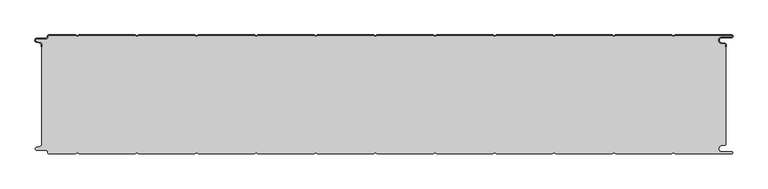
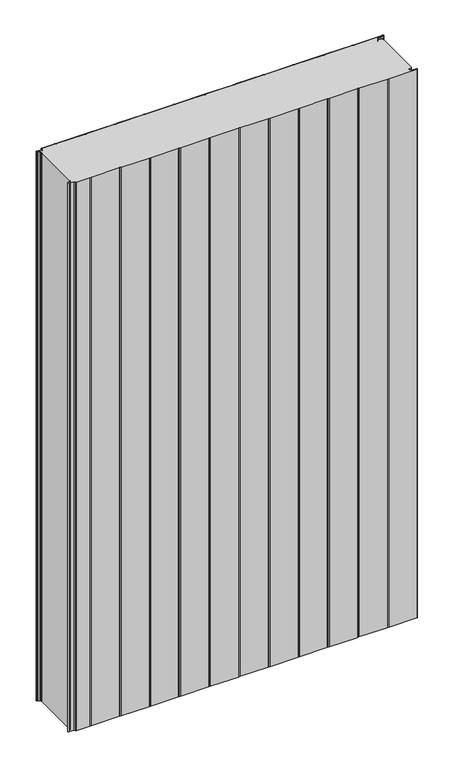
"""IFC4 building model written with IfcOpenShell, lengths in millimetres: plate geometry, PM1_Curtain-Panel_Perfil-Frigorífico : ACH_PM1_Panel-Acústico-Sectorización_200M."""

from ifc_helpers import new_model, si_unit, point, frame, frame_2d, origin, origin_with_axes, place, context, project, spatial, polyline, circle_curve, trimmed, segment, composite_curve, outline, extrude, source, transform, mapped, element, save
from ifc_brep_helpers import plane_surface, cylinder_surface, revolved_surface, advanced_brep


def plate_3ec6e447(model_context):
    return source(origin(), model_context, "Body", "SolidModel", [
        advanced_brep(
        [(-575.0, -15.878557, 1945.7507136), (-575.0, -20.0, 1945.7507136), (-574.2, -20.0, 1945.7507136), (-574.2, -15.878557, 1945.7507136), (-576.370137, -13.1503208, 1945.7507136), (-582.529863, -11.728236, 1945.7507136), (-581.9, -6.2, 1945.7507136), (-566.4, -6.2, 1945.7507136), (-563.6, -3.4, 1945.7507136), (-563.6, -2.0, 1945.7507136), (-562.4, -0.8, 1945.7507136), (-517.3143588, -0.8, 1945.7507136), (-514.4, -2.482606, 1945.7507136), (-511.4856412, -0.8, 1945.7507136), (-417.3143588, -0.8, 1945.7507136), (-414.4, -2.482606, 1945.7507136), (-411.4856412, -0.8, 1945.7507136), (-317.3143588, -0.8, 1945.7507136), (-314.4, -2.482606, 1945.7507136), (-311.4856412, -0.8, 1945.7507136), (-217.3143588, -0.8, 1945.7507136), (-214.4, -2.482606, 1945.7507136), (-211.4856412, -0.8, 1945.7507136), (-117.3143588, -0.8, 1945.7507136), (-114.4, -2.482606, 1945.7507136), (-111.4856412, -0.8, 1945.7507136), (-17.3143588, -0.8, 1945.7507136), (-14.4, -2.482606, 1945.7507136), (-11.4856412, -0.8, 1945.7507136), (82.6856412, -0.8, 1945.7507136), (85.6, -2.482606, 1945.7507136), (88.5143588, -0.8, 1945.7507136), (182.6856412, -0.8, 1945.7507136), (185.6, -2.482606, 1945.7507136), (188.5143588, -0.8, 1945.7507136), (282.6856412, -0.8, 1945.7507136), (285.6, -2.482606, 1945.7507136), (288.5143588, -0.8, 1945.7507136), (382.6856412, -0.8, 1945.7507136), (385.6, -2.482606, 1945.7507136), (388.5143588, -0.8, 1945.7507136), (482.6856412, -0.8, 1945.7507136), (485.6, -2.482606, 1945.7507136), (488.5143588, -0.8, 1945.7507136), (583.1, -0.8, 1945.7507136), (583.1, -4.2, 1945.7507136), (566.1, -4.2, 1945.7507136), (565.2664884, -13.7270771, 1945.7507136), (571.7125669, -14.8636953, 1945.7507136), (573.2, -16.6363492, 1945.7507136), (573.2, -20.0, 1945.7507136), (574.0, -20.0, 1945.7507136), (574.0, -16.6363492, 1945.7507136), (571.8514855, -14.0758491, 1945.7507136), (565.405407, -12.939231, 1945.7507136), (566.1, -5.0, 1945.7507136), (583.1, -5.0, 1945.7507136), (585.6, -2.5, 1945.7507136), (583.1, 0.0, 1945.7507136), (488.2999995, 0.0, 1945.7507136), (485.6, -1.5588455, 1945.7507136), (482.9000005, 0.0, 1945.7507136), (388.2999995, 0.0, 1945.7507136), (385.6, -1.5588455, 1945.7507136), (382.9000005, 0.0, 1945.7507136), (288.2999995, 0.0, 1945.7507136), (285.6, -1.5588455, 1945.7507136), (282.9000005, 0.0, 1945.7507136), (188.2999995, 0.0, 1945.7507136), (185.6, -1.5588455, 1945.7507136), (182.9000005, 0.0, 1945.7507136), (88.2999995, 0.0, 1945.7507136), (85.6, -1.5588455, 1945.7507136), (82.9000005, 0.0, 1945.7507136), (-11.7000005, 0.0, 1945.7507136), (-14.4, -1.5588455, 1945.7507136), (-17.0999995, 0.0, 1945.7507136), (-111.7000005, 0.0, 1945.7507136), (-114.4, -1.5588455, 1945.7507136), (-117.0999995, 0.0, 1945.7507136), (-211.7000005, 0.0, 1945.7507136), (-214.4, -1.5588455, 1945.7507136), (-217.0999995, 0.0, 1945.7507136), (-311.7000005, 0.0, 1945.7507136), (-314.4, -1.5588455, 1945.7507136), (-317.0999995, 0.0, 1945.7507136), (-411.7000005, 0.0, 1945.7507136), (-414.4, -1.5588455, 1945.7507136), (-417.0999995, 0.0, 1945.7507136), (-511.7000005, 0.0, 1945.7507136), (-514.4, -1.5588455, 1945.7507136), (-517.0999995, 0.0, 1945.7507136), (-562.4, 0.0, 1945.7507136), (-564.4, -2.0, 1945.7507136), (-564.4, -3.4, 1945.7507136), (-566.4, -5.4, 1945.7507136), (-581.9, -5.4, 1945.7507136), (-582.7098239, -12.5077322, 1945.7507136), (-576.5500979, -13.929817, 1945.7507136), (-575.0, -15.878557, 0.0), (-576.5500978, -13.9298169, 0.0), (-582.7098239, -12.507732, 0.0), (-581.9, -5.4, 0.0), (-566.4, -5.4, 0.0), (-564.4, -3.4, 0.0), (-564.4, -2.0, 0.0), (-562.4, 0.0, 0.0), (-517.0999995, 0.0, 0.0), (-514.4, -1.5588455, 0.0), (-511.7000005, 0.0, 0.0), (-417.0999995, 0.0, 0.0), (-414.4, -1.5588455, 0.0), (-411.7000005, 0.0, 0.0), (-317.0999995, 0.0, 0.0), (-314.4, -1.5588455, 0.0), (-311.7000005, 0.0, 0.0), (-217.0999995, 0.0, 0.0), (-214.4, -1.5588455, 0.0), (-211.7000005, 0.0, 0.0), (-117.0999995, 0.0, 0.0), (-114.4, -1.5588455, 0.0), (-111.7000005, 0.0, 0.0), (-17.0999995, 0.0, 0.0), (-14.4, -1.5588455, 0.0), (-11.7000005, 0.0, 0.0), (82.9000005, 0.0, 0.0), (85.6, -1.5588455, 0.0), (88.2999995, 0.0, 0.0), (182.9000005, 0.0, 0.0), (185.6, -1.5588455, 0.0), (188.2999995, 0.0, 0.0), (282.9000005, 0.0, 0.0), (285.6, -1.5588455, 0.0), (288.2999995, 0.0, 0.0), (382.9000005, 0.0, 0.0), (385.6, -1.5588455, 0.0), (388.2999995, 0.0, 0.0), (482.9000005, 0.0, 0.0), (485.6, -1.5588455, 0.0), (488.2999995, 0.0, 0.0), (583.1, 0.0, 0.0), (585.6, -2.5, 0.0), (583.1, -5.0, 0.0), (566.1, -5.0, 0.0), (565.405407, -12.939231, 0.0), (571.8514855, -14.0758491, 0.0), (574.0, -16.6363492, 0.0), (574.0, -20.0, 0.0), (573.2, -20.0, 0.0), (573.2, -16.6363492, 0.0), (571.7125669, -14.8636953, 0.0), (565.2664884, -13.7270772, 0.0), (566.1, -4.2, 0.0), (583.1, -4.2, 0.0), (583.1, -0.8, 0.0), (488.5143588, -0.8, 0.0), (485.6, -2.482606, 0.0), (482.6856412, -0.8, 0.0), (388.5143588, -0.8, 0.0), (385.6, -2.482606, 0.0), (382.6856412, -0.8, 0.0), (288.5143588, -0.8, 0.0), (285.6, -2.482606, 0.0), (282.6856412, -0.8, 0.0), (188.5143588, -0.8, 0.0), (185.6, -2.482606, 0.0), (182.6856412, -0.8, 0.0), (88.5143588, -0.8, 0.0), (85.6, -2.482606, 0.0), (82.6856412, -0.8, 0.0), (-11.4856412, -0.8, 0.0), (-14.4, -2.482606, 0.0), (-17.3143588, -0.8, 0.0), (-111.4856412, -0.8, 0.0), (-114.4, -2.482606, 0.0), (-117.3143588, -0.8, 0.0), (-211.4856412, -0.8, 0.0), (-214.4, -2.482606, 0.0), (-217.3143588, -0.8, 0.0), (-311.4856412, -0.8, 0.0), (-314.4, -2.482606, 0.0), (-317.3143588, -0.8, 0.0), (-411.4856412, -0.8, 0.0), (-414.4, -2.482606, 0.0), (-417.3143588, -0.8, 0.0), (-511.4856412, -0.8, 0.0), (-514.4, -2.482606, 0.0), (-517.3143588, -0.8, 0.0), (-562.4, -0.8, 0.0), (-563.6, -2.0, 0.0), (-563.6, -3.4, 0.0), (-566.4, -6.2, 0.0), (-581.9, -6.2, 0.0), (-582.529863, -11.7282362, 0.0), (-576.370137, -13.150321, 0.0), (-574.2, -15.878557, 0.0), (-574.2, -20.0, 0.0), (-575.0, -20.0, 0.0)],
        [
            (0, 1),
            (1, 2),
            (2, 3),
            (3, 4, circle_curve(frame((-577.0, -15.878557, 1945.7507136), z_axis=(0.0, 0.0, 1.0), x_axis=(1.0, 0.0, 0.0)), 2.8)),
            (4, 5),
            (5, 6, circle_curve(frame((-581.9, -9.0, 1945.7507136), z_axis=(0.0, 0.0, -1.0), x_axis=(1.0, 0.0, 0.0)), 2.8)),
            (6, 7),
            (7, 8, circle_curve(frame((-566.4, -3.4, 1945.7507136), z_axis=(0.0, 0.0, 1.0), x_axis=(1.0, 0.0, 0.0)), 2.8)),
            (8, 9),
            (9, 10, circle_curve(frame((-562.4, -2.0, 1945.7507136), z_axis=(0.0, 0.0, -1.0), x_axis=(1.0, 0.0, 0.0)), 1.2)),
            (10, 11),
            (11, 12),
            (12, 13),
            (13, 14),
            (14, 15),
            (15, 16),
            (16, 17),
            (17, 18),
            (18, 19),
            (19, 20),
            (20, 21),
            (21, 22),
            (22, 23),
            (23, 24),
            (24, 25),
            (25, 26),
            (26, 27),
            (27, 28),
            (28, 29),
            (29, 30),
            (30, 31),
            (31, 32),
            (32, 33),
            (33, 34),
            (34, 35),
            (35, 36),
            (36, 37),
            (37, 38),
            (38, 39),
            (39, 40),
            (40, 41),
            (41, 42),
            (42, 43),
            (43, 44),
            (44, 45, circle_curve(frame((583.1, -2.5, 1945.7507136), z_axis=(0.0, 0.0, -1.0), x_axis=(1.0, 0.0, 0.0)), 1.7)),
            (45, 46),
            (46, 47, circle_curve(frame((566.1, -9.0, 1945.7507136), z_axis=(0.0, 0.0, 1.0), x_axis=(1.0, 0.0, 0.0)), 4.8)),
            (47, 48),
            (48, 49, circle_curve(frame((571.4, -16.6363492, 1945.7507136), z_axis=(0.0, 0.0, -1.0), x_axis=(1.0, 0.0, 0.0)), 1.8)),
            (49, 50),
            (50, 51),
            (51, 52),
            (52, 53, circle_curve(frame((571.4, -16.6363492, 1945.7507136), z_axis=(0.0, 0.0, 1.0), x_axis=(1.0, 0.0, 0.0)), 2.6)),
            (53, 54),
            (54, 55, circle_curve(frame((566.1, -9.0, 1945.7507136), z_axis=(0.0, 0.0, -1.0), x_axis=(1.0, 0.0, 0.0)), 4.0)),
            (55, 56),
            (56, 57, circle_curve(frame((583.1, -2.5, 1945.7507136), z_axis=(0.0, 0.0, 1.0), x_axis=(1.0, 0.0, 0.0)), 2.5)),
            (57, 58, circle_curve(frame((583.1, -2.5, 1945.7507136), z_axis=(0.0, 0.0, 1.0), x_axis=(1.0, 0.0, 0.0)), 2.5)),
            (58, 59),
            (59, 60),
            (60, 61),
            (61, 62),
            (62, 63),
            (63, 64),
            (64, 65),
            (65, 66),
            (66, 67),
            (67, 68),
            (68, 69),
            (69, 70),
            (70, 71),
            (71, 72),
            (72, 73),
            (73, 74),
            (74, 75),
            (75, 76),
            (76, 77),
            (77, 78),
            (78, 79),
            (79, 80),
            (80, 81),
            (81, 82),
            (82, 83),
            (83, 84),
            (84, 85),
            (85, 86),
            (86, 87),
            (87, 88),
            (88, 89),
            (89, 90),
            (90, 91),
            (91, 92),
            (92, 93, circle_curve(frame((-562.4, -2.0, 1945.7507136), z_axis=(0.0, 0.0, 1.0), x_axis=(1.0, 0.0, 0.0)), 2.0)),
            (93, 94),
            (94, 95, circle_curve(frame((-566.4, -3.4, 1945.7507136), z_axis=(0.0, 0.0, -1.0), x_axis=(1.0, 0.0, 0.0)), 2.0)),
            (95, 96),
            (96, 97, circle_curve(frame((-581.9, -9.0, 1945.7507136), z_axis=(0.0, 0.0, 1.0), x_axis=(1.0, 0.0, 0.0)), 3.6)),
            (97, 98),
            (98, 0, circle_curve(frame((-577.0, -15.878557, 1945.7507136), z_axis=(0.0, 0.0, -1.0), x_axis=(1.0, 0.0, 0.0)), 2.0)),
            (99, 100, circle_curve(frame((-577.0, -15.878557, 0.0), z_axis=(0.0, 0.0, 1.0), x_axis=(1.0, 0.0, 0.0)), 2.0)),
            (100, 101),
            (101, 102, circle_curve(frame((-581.9, -9.0, 0.0), z_axis=(0.0, 0.0, -1.0), x_axis=(1.0, 0.0, 0.0)), 3.6)),
            (102, 103),
            (103, 104, circle_curve(frame((-566.4, -3.4, 0.0), z_axis=(0.0, 0.0, 1.0), x_axis=(1.0, 0.0, 0.0)), 2.0)),
            (104, 105),
            (105, 106, circle_curve(frame((-562.4, -2.0, 0.0), z_axis=(0.0, 0.0, -1.0), x_axis=(1.0, 0.0, 0.0)), 2.0)),
            (106, 107),
            (107, 108),
            (108, 109),
            (109, 110),
            (110, 111),
            (111, 112),
            (112, 113),
            (113, 114),
            (114, 115),
            (115, 116),
            (116, 117),
            (117, 118),
            (118, 119),
            (119, 120),
            (120, 121),
            (121, 122),
            (122, 123),
            (123, 124),
            (124, 125),
            (125, 126),
            (126, 127),
            (127, 128),
            (128, 129),
            (129, 130),
            (130, 131),
            (131, 132),
            (132, 133),
            (133, 134),
            (134, 135),
            (135, 136),
            (136, 137),
            (137, 138),
            (138, 139),
            (139, 140),
            (140, 141, circle_curve(frame((583.1, -2.5, 0.0), z_axis=(0.0, 0.0, -1.0), x_axis=(1.0, 0.0, 0.0)), 2.5)),
            (141, 142, circle_curve(frame((583.1, -2.5, 0.0), z_axis=(0.0, 0.0, -1.0), x_axis=(1.0, 0.0, 0.0)), 2.5)),
            (142, 143),
            (143, 144, circle_curve(frame((566.1, -9.0, 0.0), z_axis=(0.0, 0.0, 1.0), x_axis=(1.0, 0.0, 0.0)), 4.0)),
            (144, 145),
            (145, 146, circle_curve(frame((571.4, -16.6363492, 0.0), z_axis=(0.0, 0.0, -1.0), x_axis=(1.0, 0.0, 0.0)), 2.6)),
            (146, 147),
            (147, 148),
            (148, 149),
            (149, 150, circle_curve(frame((571.4, -16.6363492, 0.0), z_axis=(0.0, 0.0, 1.0), x_axis=(1.0, 0.0, 0.0)), 1.8)),
            (150, 151),
            (151, 152, circle_curve(frame((566.1, -9.0, 0.0), z_axis=(0.0, 0.0, -1.0), x_axis=(1.0, 0.0, 0.0)), 4.8)),
            (152, 153),
            (153, 154, circle_curve(frame((583.1, -2.5, 0.0), z_axis=(0.0, 0.0, 1.0), x_axis=(1.0, 0.0, 0.0)), 1.7)),
            (154, 155),
            (155, 156),
            (156, 157),
            (157, 158),
            (158, 159),
            (159, 160),
            (160, 161),
            (161, 162),
            (162, 163),
            (163, 164),
            (164, 165),
            (165, 166),
            (166, 167),
            (167, 168),
            (168, 169),
            (169, 170),
            (170, 171),
            (171, 172),
            (172, 173),
            (173, 174),
            (174, 175),
            (175, 176),
            (176, 177),
            (177, 178),
            (178, 179),
            (179, 180),
            (180, 181),
            (181, 182),
            (182, 183),
            (183, 184),
            (184, 185),
            (185, 186),
            (186, 187),
            (187, 188),
            (188, 189, circle_curve(frame((-562.4, -2.0, 0.0), z_axis=(0.0, 0.0, 1.0), x_axis=(1.0, 0.0, 0.0)), 1.2)),
            (189, 190),
            (190, 191, circle_curve(frame((-566.4, -3.4, 0.0), z_axis=(0.0, 0.0, -1.0), x_axis=(1.0, 0.0, 0.0)), 2.8)),
            (191, 192),
            (192, 193, circle_curve(frame((-581.9, -9.0, 0.0), z_axis=(0.0, 0.0, 1.0), x_axis=(1.0, 0.0, 0.0)), 2.8)),
            (193, 194),
            (194, 195, circle_curve(frame((-577.0, -15.878557, 0.0), z_axis=(0.0, 0.0, -1.0), x_axis=(1.0, 0.0, 0.0)), 2.8)),
            (195, 196),
            (196, 197),
            (197, 99),
            (0, 99),
            (197, 1),
            (196, 2),
            (195, 3),
            (194, 4),
            (193, 5),
            (192, 6),
            (191, 7),
            (190, 8),
            (189, 9),
            (188, 10),
            (187, 11),
            (186, 12),
            (185, 13),
            (184, 14),
            (183, 15),
            (182, 16),
            (181, 17),
            (180, 18),
            (179, 19),
            (178, 20),
            (177, 21),
            (176, 22),
            (175, 23),
            (174, 24),
            (173, 25),
            (172, 26),
            (171, 27),
            (170, 28),
            (169, 29),
            (168, 30),
            (167, 31),
            (166, 32),
            (165, 33),
            (164, 34),
            (163, 35),
            (162, 36),
            (161, 37),
            (160, 38),
            (159, 39),
            (158, 40),
            (157, 41),
            (156, 42),
            (155, 43),
            (154, 44),
            (153, 45),
            (152, 46),
            (151, 47),
            (150, 48),
            (149, 49),
            (148, 50),
            (147, 51),
            (146, 52),
            (145, 53),
            (144, 54),
            (143, 55),
            (142, 56),
            (140, 58),
            (139, 59),
            (138, 60),
            (137, 61),
            (136, 62),
            (135, 63),
            (134, 64),
            (133, 65),
            (132, 66),
            (131, 67),
            (130, 68),
            (129, 69),
            (128, 70),
            (127, 71),
            (126, 72),
            (125, 73),
            (124, 74),
            (123, 75),
            (122, 76),
            (121, 77),
            (120, 78),
            (119, 79),
            (118, 80),
            (117, 81),
            (116, 82),
            (115, 83),
            (114, 84),
            (113, 85),
            (112, 86),
            (111, 87),
            (110, 88),
            (109, 89),
            (108, 90),
            (107, 91),
            (106, 92),
            (105, 93),
            (104, 94),
            (103, 95),
            (102, 96),
            (101, 97),
            (100, 98),
        ],
        [
            plane_surface(frame((-575.0, 0.0, 1945.7507136), z_axis=(0.0, 0.0, 1.0), x_axis=(0.0, 1.0, 0.0))),
            plane_surface(frame((-575.0, 0.0, 0.0), z_axis=(0.0, 0.0, -1.0), x_axis=(0.0, 1.0, 0.0))),
            plane_surface(frame((-575.0, -15.878557, 1945.7507136), z_axis=(-1.0, 0.0, 0.0), x_axis=(0.0, 0.0, -1.0))),
            plane_surface(frame((-575.0, -20.0, 1945.7507136), z_axis=(0.0, -1.0, 0.0), x_axis=(0.0, 0.0, -1.0))),
            plane_surface(frame((-574.2, -20.0, 1945.7507136), z_axis=(1.0, 0.0, 0.0), x_axis=(0.0, 0.0, -1.0))),
            cylinder_surface(frame((-577.0, -15.878557, 1945.7507136), z_axis=(0.0, 0.0, 1.0), x_axis=(1.0, 0.0, 0.0)), 2.8),
            plane_surface(frame((-576.370137, -13.150321, 1945.7507136), z_axis=(0.22495108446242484, 0.9743700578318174, 0.0), x_axis=(0.0, 0.0, -1.0))),
            revolved_surface(polyline([(-579.1, -9.0, 0.0), (-579.1, -9.0, 1945.7507136)]), (-581.9, -9.0, 1945.7507136), (0.0, 0.0, -1.0)),
            plane_surface(frame((-581.9, -6.2, 1945.7507136), z_axis=(0.0, -1.0, 0.0), x_axis=(0.0, 0.0, -1.0))),
            cylinder_surface(frame((-566.4, -3.4, 1945.7507136), z_axis=(0.0, 0.0, 1.0), x_axis=(1.0, 0.0, 0.0)), 2.8),
            plane_surface(frame((-563.6, -3.4, 1945.7507136), z_axis=(1.0, 0.0, 0.0), x_axis=(0.0, 0.0, -1.0))),
            revolved_surface(polyline([(-561.1999999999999, -2.0, 0.0), (-561.1999999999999, -2.0, 1945.7507136)]), (-562.4, -2.0, 1945.7507136), (0.0, 0.0, -1.0)),
            plane_surface(frame((-562.4, -0.8, 1945.7507136), z_axis=(0.0, -1.0, 0.0), x_axis=(0.0, 0.0, -1.0))),
            plane_surface(frame((-517.3143588, -0.8, 1945.7507136), z_axis=(-0.5000000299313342, -0.8660253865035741, 0.0), x_axis=(0.0, 0.0, -1.0))),
            plane_surface(frame((-514.4, -2.482606, 1945.7507136), z_axis=(0.5000000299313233, -0.8660253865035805, 0.0), x_axis=(0.0, 0.0, -1.0))),
            plane_surface(frame((-511.4856412, -0.8, 1945.7507136), z_axis=(0.0, -1.0, 0.0), x_axis=(0.0, 0.0, -1.0))),
            plane_surface(frame((-417.3143588, -0.8, 1945.7507136), z_axis=(-0.5000000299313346, -0.8660253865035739, 0.0), x_axis=(0.0, 0.0, -1.0))),
            plane_surface(frame((-414.4, -2.482606, 1945.7507136), z_axis=(0.5000000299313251, -0.8660253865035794, 0.0), x_axis=(0.0, 0.0, -1.0))),
            plane_surface(frame((-411.4856412, -0.8, 1945.7507136), z_axis=(0.0, -1.0, 0.0), x_axis=(0.0, 0.0, -1.0))),
            plane_surface(frame((-317.3143588, -0.8, 1945.7507136), z_axis=(-0.5000000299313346, -0.866025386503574, 0.0), x_axis=(0.0, 0.0, -1.0))),
            plane_surface(frame((-314.4, -2.482606, 1945.7507136), z_axis=(0.5000000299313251, -0.8660253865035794, 0.0), x_axis=(0.0, 0.0, -1.0))),
            plane_surface(frame((-311.4856412, -0.8, 1945.7507136), z_axis=(0.0, -1.0, 0.0), x_axis=(0.0, 0.0, -1.0))),
            plane_surface(frame((-217.3143588, -0.8, 1945.7507136), z_axis=(-0.5000000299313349, -0.8660253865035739, 0.0), x_axis=(0.0, 0.0, -1.0))),
            plane_surface(frame((-214.4, -2.482606, 1945.7507136), z_axis=(0.5000000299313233, -0.8660253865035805, 0.0), x_axis=(0.0, 0.0, -1.0))),
            plane_surface(frame((-211.4856412, -0.8, 1945.7507136), z_axis=(0.0, -1.0, 0.0), x_axis=(0.0, 0.0, -1.0))),
            plane_surface(frame((-117.3143588, -0.8, 1945.7507136), z_axis=(-0.5000000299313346, -0.866025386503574, 0.0), x_axis=(0.0, 0.0, -1.0))),
            plane_surface(frame((-114.4, -2.482606, 1945.7507136), z_axis=(0.5000000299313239, -0.8660253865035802, 0.0), x_axis=(0.0, 0.0, -1.0))),
            plane_surface(frame((-111.4856412, -0.8, 1945.7507136), z_axis=(0.0, -1.0, 0.0), x_axis=(0.0, 0.0, -1.0))),
            plane_surface(frame((-17.3143588, -0.8, 1945.7507136), z_axis=(-0.5000000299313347, -0.8660253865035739, 0.0), x_axis=(0.0, 0.0, -1.0))),
            plane_surface(frame((-14.4, -2.482606, 1945.7507136), z_axis=(0.5000000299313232, -0.8660253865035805, 0.0), x_axis=(0.0, 0.0, -1.0))),
            plane_surface(frame((-11.4856412, -0.8, 1945.7507136), z_axis=(0.0, -1.0, 0.0), x_axis=(0.0, 0.0, -1.0))),
            plane_surface(frame((82.6856412, -0.8, 1945.7507136), z_axis=(-0.5000000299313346, -0.866025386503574, 0.0), x_axis=(0.0, 0.0, -1.0))),
            plane_surface(frame((85.6, -2.482606, 1945.7507136), z_axis=(0.5000000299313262, -0.8660253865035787, 0.0), x_axis=(0.0, 0.0, -1.0))),
            plane_surface(frame((88.5143588, -0.8, 1945.7507136), z_axis=(0.0, -1.0, 0.0), x_axis=(0.0, 0.0, -1.0))),
            plane_surface(frame((182.6856412, -0.8, 1945.7507136), z_axis=(-0.5000000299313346, -0.8660253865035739, 0.0), x_axis=(0.0, 0.0, -1.0))),
            plane_surface(frame((185.6, -2.482606, 1945.7507136), z_axis=(0.5000000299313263, -0.8660253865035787, 0.0), x_axis=(0.0, 0.0, -1.0))),
            plane_surface(frame((188.5143588, -0.8, 1945.7507136), z_axis=(0.0, -1.0, 0.0), x_axis=(0.0, 0.0, -1.0))),
            plane_surface(frame((282.6856412, -0.8, 1945.7507136), z_axis=(-0.5000000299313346, -0.8660253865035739, 0.0), x_axis=(0.0, 0.0, -1.0))),
            plane_surface(frame((285.6, -2.482606, 1945.7507136), z_axis=(0.5000000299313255, -0.8660253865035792, 0.0), x_axis=(0.0, 0.0, -1.0))),
            plane_surface(frame((288.5143588, -0.8, 1945.7507136), z_axis=(0.0, -1.0, 0.0), x_axis=(0.0, 0.0, -1.0))),
            plane_surface(frame((382.6856412, -0.8, 1945.7507136), z_axis=(-0.5000000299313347, -0.8660253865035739, 0.0), x_axis=(0.0, 0.0, -1.0))),
            plane_surface(frame((385.6, -2.482606, 1945.7507136), z_axis=(0.5000000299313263, -0.8660253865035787, 0.0), x_axis=(0.0, 0.0, -1.0))),
            plane_surface(frame((388.5143588, -0.8, 1945.7507136), z_axis=(0.0, -1.0, 0.0), x_axis=(0.0, 0.0, -1.0))),
            plane_surface(frame((482.6856412, -0.8, 1945.7507136), z_axis=(-0.5000000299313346, -0.866025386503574, 0.0), x_axis=(0.0, 0.0, -1.0))),
            plane_surface(frame((485.6, -2.482606, 1945.7507136), z_axis=(0.5000000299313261, -0.8660253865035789, 0.0), x_axis=(0.0, 0.0, -1.0))),
            plane_surface(frame((535.6, -0.8, 1945.7507136), z_axis=(0.0, -1.0, 0.0), x_axis=(0.0, 0.0, -1.0))),
            revolved_surface(polyline([(584.8000000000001, -2.5, 0.0), (584.8000000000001, -2.5, 1945.7507136)]), (583.1, -2.5, 1945.7507136), (0.0, 0.0, -1.0)),
            plane_surface(frame((583.1, -4.2, 1945.7507136), z_axis=(0.0, 1.0, 0.0), x_axis=(0.0, 0.0, -1.0))),
            cylinder_surface(frame((566.1, -9.0, 1945.7507136), z_axis=(0.0, 0.0, 1.0), x_axis=(1.0, 0.0, 0.0)), 4.8),
            plane_surface(frame((565.2664884, -13.7270772, 1945.7507136), z_axis=(-0.17364825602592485, -0.9848077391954, 0.0), x_axis=(0.0, 0.0, -1.0))),
            revolved_surface(polyline([(573.1999999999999, -16.6363492, 0.0), (573.1999999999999, -16.6363492, 1945.7507136)]), (571.4, -16.6363492, 1945.7507136), (0.0, 0.0, -1.0)),
            plane_surface(frame((573.2, -16.6363492, 1945.7507136), z_axis=(-1.0, 0.0, 0.0), x_axis=(0.0, 0.0, -1.0))),
            plane_surface(frame((573.2, -20.0, 1945.7507136), z_axis=(0.0, -1.0, 0.0), x_axis=(0.0, 0.0, -1.0))),
            plane_surface(frame((574.0, -20.0, 1945.7507136), z_axis=(1.0, 0.0, 0.0), x_axis=(0.0, 0.0, -1.0))),
            cylinder_surface(frame((571.4, -16.6363492, 1945.7507136), z_axis=(0.0, 0.0, 1.0), x_axis=(1.0, 0.0, 0.0)), 2.6),
            plane_surface(frame((571.8514855, -14.0758491, 1945.7507136), z_axis=(0.1736482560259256, 0.9848077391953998, 0.0), x_axis=(0.0, 0.0, -1.0))),
            revolved_surface(polyline([(570.1, -9.0, 0.0), (570.1, -9.0, 1945.7507136)]), (566.1, -9.0, 1945.7507136), (0.0, 0.0, -1.0)),
            plane_surface(frame((566.1, -5.0, 1945.7507136), z_axis=(0.0, -1.0, 0.0), x_axis=(0.0, 0.0, -1.0))),
            cylinder_surface(frame((583.1, -2.5, 1945.7507136), z_axis=(0.0, 0.0, 1.0), x_axis=(1.0, 0.0, 0.0)), 2.5),
            plane_surface(frame((535.6, 0.0, 1945.7507136), z_axis=(0.0, 1.0, 0.0), x_axis=(0.0, 0.0, -1.0))),
            plane_surface(frame((488.2999995, 0.0, 1945.7507136), z_axis=(-0.5000000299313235, 0.8660253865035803, 0.0), x_axis=(0.0, 0.0, -1.0))),
            plane_surface(frame((485.6, -1.5588455, 1945.7507136), z_axis=(0.5000000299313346, 0.8660253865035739, 0.0), x_axis=(0.0, 0.0, -1.0))),
            plane_surface(frame((482.9000005, 0.0, 1945.7507136), z_axis=(0.0, 1.0, 0.0), x_axis=(0.0, 0.0, -1.0))),
            plane_surface(frame((388.2999995, 0.0, 1945.7507136), z_axis=(-0.5000000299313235, 0.8660253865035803, 0.0), x_axis=(0.0, 0.0, -1.0))),
            plane_surface(frame((385.6, -1.5588455, 1945.7507136), z_axis=(0.5000000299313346, 0.8660253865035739, 0.0), x_axis=(0.0, 0.0, -1.0))),
            plane_surface(frame((382.9000005, 0.0, 1945.7507136), z_axis=(0.0, 1.0, 0.0), x_axis=(0.0, 0.0, -1.0))),
            plane_surface(frame((288.2999995, 0.0, 1945.7507136), z_axis=(-0.5000000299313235, 0.8660253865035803, 0.0), x_axis=(0.0, 0.0, -1.0))),
            plane_surface(frame((285.6, -1.5588455, 1945.7507136), z_axis=(0.5000000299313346, 0.8660253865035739, 0.0), x_axis=(0.0, 0.0, -1.0))),
            plane_surface(frame((282.9000005, 0.0, 1945.7507136), z_axis=(0.0, 1.0, 0.0), x_axis=(0.0, 0.0, -1.0))),
            plane_surface(frame((188.2999995, 0.0, 1945.7507136), z_axis=(-0.5000000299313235, 0.8660253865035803, 0.0), x_axis=(0.0, 0.0, -1.0))),
            plane_surface(frame((185.6, -1.5588455, 1945.7507136), z_axis=(0.5000000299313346, 0.8660253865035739, 0.0), x_axis=(0.0, 0.0, -1.0))),
            plane_surface(frame((182.9000005, 0.0, 1945.7507136), z_axis=(0.0, 1.0, 0.0), x_axis=(0.0, 0.0, -1.0))),
            plane_surface(frame((88.2999995, 0.0, 1945.7507136), z_axis=(-0.5000000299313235, 0.8660253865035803, 0.0), x_axis=(0.0, 0.0, -1.0))),
            plane_surface(frame((85.6, -1.5588455, 1945.7507136), z_axis=(0.5000000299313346, 0.8660253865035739, 0.0), x_axis=(0.0, 0.0, -1.0))),
            plane_surface(frame((82.9000005, 0.0, 1945.7507136), z_axis=(0.0, 1.0, 0.0), x_axis=(0.0, 0.0, -1.0))),
            plane_surface(frame((-11.7000005, 0.0, 1945.7507136), z_axis=(-0.5000000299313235, 0.8660253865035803, 0.0), x_axis=(0.0, 0.0, -1.0))),
            plane_surface(frame((-14.4, -1.5588455, 1945.7507136), z_axis=(0.5000000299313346, 0.8660253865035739, 0.0), x_axis=(0.0, 0.0, -1.0))),
            plane_surface(frame((-17.0999995, 0.0, 1945.7507136), z_axis=(0.0, 1.0, 0.0), x_axis=(0.0, 0.0, -1.0))),
            plane_surface(frame((-111.7000005, 0.0, 1945.7507136), z_axis=(-0.5000000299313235, 0.8660253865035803, 0.0), x_axis=(0.0, 0.0, -1.0))),
            plane_surface(frame((-114.4, -1.5588455, 1945.7507136), z_axis=(0.5000000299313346, 0.8660253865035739, 0.0), x_axis=(0.0, 0.0, -1.0))),
            plane_surface(frame((-117.0999995, 0.0, 1945.7507136), z_axis=(0.0, 1.0, 0.0), x_axis=(0.0, 0.0, -1.0))),
            plane_surface(frame((-211.7000005, 0.0, 1945.7507136), z_axis=(-0.5000000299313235, 0.8660253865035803, 0.0), x_axis=(0.0, 0.0, -1.0))),
            plane_surface(frame((-214.4, -1.5588455, 1945.7507136), z_axis=(0.5000000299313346, 0.8660253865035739, 0.0), x_axis=(0.0, 0.0, -1.0))),
            plane_surface(frame((-217.0999995, 0.0, 1945.7507136), z_axis=(0.0, 1.0, 0.0), x_axis=(0.0, 0.0, -1.0))),
            plane_surface(frame((-311.7000005, 0.0, 1945.7507136), z_axis=(-0.5000000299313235, 0.8660253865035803, 0.0), x_axis=(0.0, 0.0, -1.0))),
            plane_surface(frame((-314.4, -1.5588455, 1945.7507136), z_axis=(0.5000000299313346, 0.8660253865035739, 0.0), x_axis=(0.0, 0.0, -1.0))),
            plane_surface(frame((-317.0999995, 0.0, 1945.7507136), z_axis=(0.0, 1.0, 0.0), x_axis=(0.0, 0.0, -1.0))),
            plane_surface(frame((-411.7000005, 0.0, 1945.7507136), z_axis=(-0.5000000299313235, 0.8660253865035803, 0.0), x_axis=(0.0, 0.0, -1.0))),
            plane_surface(frame((-414.4, -1.5588455, 1945.7507136), z_axis=(0.5000000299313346, 0.8660253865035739, 0.0), x_axis=(0.0, 0.0, -1.0))),
            plane_surface(frame((-417.0999995, 0.0, 1945.7507136), z_axis=(0.0, 1.0, 0.0), x_axis=(0.0, 0.0, -1.0))),
            plane_surface(frame((-511.7000005, 0.0, 1945.7507136), z_axis=(-0.5000000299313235, 0.8660253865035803, 0.0), x_axis=(0.0, 0.0, -1.0))),
            plane_surface(frame((-514.4, -1.5588455, 1945.7507136), z_axis=(0.5000000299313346, 0.8660253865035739, 0.0), x_axis=(0.0, 0.0, -1.0))),
            plane_surface(frame((-517.0999995, 0.0, 1945.7507136), z_axis=(0.0, 1.0, 0.0), x_axis=(0.0, 0.0, -1.0))),
            cylinder_surface(frame((-562.4, -2.0, 1945.7507136), z_axis=(0.0, 0.0, 1.0), x_axis=(1.0, 0.0, 0.0)), 2.0),
            plane_surface(frame((-564.4, -2.0, 1945.7507136), z_axis=(-1.0, 0.0, 0.0), x_axis=(0.0, 0.0, -1.0))),
            revolved_surface(polyline([(-564.4, -3.4, 0.0), (-564.4, -3.4, 1945.7507136)]), (-566.4, -3.4, 1945.7507136), (0.0, 0.0, -1.0)),
            plane_surface(frame((-566.4, -5.4, 1945.7507136), z_axis=(0.0, 1.0, 0.0), x_axis=(0.0, 0.0, -1.0))),
            cylinder_surface(frame((-581.9, -9.0, 1945.7507136), z_axis=(0.0, 0.0, 1.0), x_axis=(1.0, 0.0, 0.0)), 3.6),
            plane_surface(frame((-582.7098239, -12.507732, 1945.7507136), z_axis=(-0.22495108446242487, -0.9743700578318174, 0.0), x_axis=(0.0, 0.0, -1.0))),
            revolved_surface(polyline([(-575.0, -15.878557, 0.0), (-575.0, -15.878557, 1945.7507136)]), (-577.0, -15.878557, 1945.7507136), (0.0, 0.0, -1.0)),
        ],
        [
            (0, [[1, 2, 3, 4, 5, 6, 7, 8, 9, 10, 11, 12, 13, 14, 15, 16, 17, 18, 19, 20, 21, 22, 23, 24, 25, 26, 27, 28, 29, 30, 31, 32, 33, 34, 35, 36, 37, 38, 39, 40, 41, 42, 43, 44, 45, 46, 47, 48, 49, 50, 51, 52, 53, 54, 55, 56, 57, 58, 59, 60, 61, 62, 63, 64, 65, 66, 67, 68, 69, 70, 71, 72, 73, 74, 75, 76, 77, 78, 79, 80, 81, 82, 83, 84, 85, 86, 87, 88, 89, 90, 91, 92, 93, 94, 95, 96, 97, 98, 99]]),
            (1, [[100, 101, 102, 103, 104, 105, 106, 107, 108, 109, 110, 111, 112, 113, 114, 115, 116, 117, 118, 119, 120, 121, 122, 123, 124, 125, 126, 127, 128, 129, 130, 131, 132, 133, 134, 135, 136, 137, 138, 139, 140, 141, 142, 143, 144, 145, 146, 147, 148, 149, 150, 151, 152, 153, 154, 155, 156, 157, 158, 159, 160, 161, 162, 163, 164, 165, 166, 167, 168, 169, 170, 171, 172, 173, 174, 175, 176, 177, 178, 179, 180, 181, 182, 183, 184, 185, 186, 187, 188, 189, 190, 191, 192, 193, 194, 195, 196, 197, 198]]),
            (2, [[-1, 199, -198, 200]]),
            (3, [[-2, -200, -197, 201]]),
            (4, [[-3, -201, -196, 202]]),
            (5, [[-4, -202, -195, 203]]),
            (6, [[-5, -203, -194, 204]]),
            (7, [[-6, -204, -193, 205]]),
            (8, [[-7, -205, -192, 206]]),
            (9, [[-8, -206, -191, 207]]),
            (10, [[-9, -207, -190, 208]]),
            (11, [[-10, -208, -189, 209]]),
            (12, [[-11, -209, -188, 210]]),
            (13, [[-12, -210, -187, 211]]),
            (14, [[-13, -211, -186, 212]]),
            (15, [[-14, -212, -185, 213]]),
            (16, [[-15, -213, -184, 214]]),
            (17, [[-16, -214, -183, 215]]),
            (18, [[-17, -215, -182, 216]]),
            (19, [[-18, -216, -181, 217]]),
            (20, [[-19, -217, -180, 218]]),
            (21, [[-20, -218, -179, 219]]),
            (22, [[-21, -219, -178, 220]]),
            (23, [[-22, -220, -177, 221]]),
            (24, [[-23, -221, -176, 222]]),
            (25, [[-24, -222, -175, 223]]),
            (26, [[-25, -223, -174, 224]]),
            (27, [[-26, -224, -173, 225]]),
            (28, [[-27, -225, -172, 226]]),
            (29, [[-28, -226, -171, 227]]),
            (30, [[-29, -227, -170, 228]]),
            (31, [[-30, -228, -169, 229]]),
            (32, [[-31, -229, -168, 230]]),
            (33, [[-32, -230, -167, 231]]),
            (34, [[-33, -231, -166, 232]]),
            (35, [[-34, -232, -165, 233]]),
            (36, [[-35, -233, -164, 234]]),
            (37, [[-36, -234, -163, 235]]),
            (38, [[-37, -235, -162, 236]]),
            (39, [[-38, -236, -161, 237]]),
            (40, [[-39, -237, -160, 238]]),
            (41, [[-40, -238, -159, 239]]),
            (42, [[-41, -239, -158, 240]]),
            (43, [[-42, -240, -157, 241]]),
            (44, [[-43, -241, -156, 242]]),
            (45, [[-44, -242, -155, 243]]),
            (46, [[-45, -243, -154, 244]]),
            (47, [[-46, -244, -153, 245]]),
            (48, [[-47, -245, -152, 246]]),
            (49, [[-48, -246, -151, 247]]),
            (50, [[-49, -247, -150, 248]]),
            (51, [[-50, -248, -149, 249]]),
            (52, [[-51, -249, -148, 250]]),
            (53, [[-52, -250, -147, 251]]),
            (54, [[-53, -251, -146, 252]]),
            (55, [[-54, -252, -145, 253]]),
            (56, [[-55, -253, -144, 254]]),
            (57, [[-56, -254, -143, 255]]),
            (58, [[-255, -142, -141, 256, -58, -57]]),
            (59, [[-59, -256, -140, 257]]),
            (60, [[-60, -257, -139, 258]]),
            (61, [[-61, -258, -138, 259]]),
            (62, [[-62, -259, -137, 260]]),
            (63, [[-63, -260, -136, 261]]),
            (64, [[-64, -261, -135, 262]]),
            (65, [[-65, -262, -134, 263]]),
            (66, [[-66, -263, -133, 264]]),
            (67, [[-67, -264, -132, 265]]),
            (68, [[-68, -265, -131, 266]]),
            (69, [[-69, -266, -130, 267]]),
            (70, [[-70, -267, -129, 268]]),
            (71, [[-71, -268, -128, 269]]),
            (72, [[-72, -269, -127, 270]]),
            (73, [[-73, -270, -126, 271]]),
            (74, [[-74, -271, -125, 272]]),
            (75, [[-75, -272, -124, 273]]),
            (76, [[-76, -273, -123, 274]]),
            (77, [[-77, -274, -122, 275]]),
            (78, [[-78, -275, -121, 276]]),
            (79, [[-79, -276, -120, 277]]),
            (80, [[-80, -277, -119, 278]]),
            (81, [[-81, -278, -118, 279]]),
            (82, [[-82, -279, -117, 280]]),
            (83, [[-83, -280, -116, 281]]),
            (84, [[-84, -281, -115, 282]]),
            (85, [[-85, -282, -114, 283]]),
            (86, [[-86, -283, -113, 284]]),
            (87, [[-87, -284, -112, 285]]),
            (88, [[-88, -285, -111, 286]]),
            (89, [[-89, -286, -110, 287]]),
            (90, [[-90, -287, -109, 288]]),
            (91, [[-91, -288, -108, 289]]),
            (92, [[-92, -289, -107, 290]]),
            (93, [[-93, -290, -106, 291]]),
            (94, [[-94, -291, -105, 292]]),
            (95, [[-95, -292, -104, 293]]),
            (96, [[-96, -293, -103, 294]]),
            (97, [[-97, -294, -102, 295]]),
            (98, [[-98, -295, -101, 296]]),
            (99, [[-99, -296, -100, -199]]),
        ],
    ),
        extrude(outline(composite_curve([segment(polyline([(-574.2, -184.1214426), (-574.2, -15.8785573)]), True, "CONTINUOUS"), segment(trimmed(circle_curve(frame_2d((-577.0, -15.8785573)), 2.8), [point((-574.2, -15.8785573))], [point((-576.370137, -13.1503212))], True, "CARTESIAN"), True, "CONTINUOUS"), segment(polyline([(-576.370137, -13.1503212), (-582.5298631, -11.7282362)]), True, "CONTINUOUS"), segment(trimmed(circle_curve(frame_2d((-581.9, -9.0)), 2.8), [point((-582.5298631, -11.7282362))], [point((-581.9, -6.2))], False, "CARTESIAN"), True, "CONTINUOUS"), segment(polyline([(-581.9, -6.2), (-566.4000001, -6.2)]), True, "CONTINUOUS"), segment(trimmed(circle_curve(frame_2d((-566.4000001, -3.4)), 2.8), [point((-566.4000001, -6.2))], [point((-563.6000001, -3.4))], True, "CARTESIAN"), True, "CONTINUOUS"), segment(polyline([(-563.6000001, -3.4), (-563.6000001, -2.0)]), True, "CONTINUOUS"), segment(trimmed(circle_curve(frame_2d((-562.4000001, -2.0)), 1.2), [point((-563.6000001, -2.0))], [point((-562.4000001, -0.8))], False, "CARTESIAN"), True, "CONTINUOUS"), segment(polyline([(-562.4000001, -0.8), (-517.3143589, -0.8), (-514.4000001, -2.482606), (-511.4856412, -0.8), (-417.3143589, -0.8), (-414.4000001, -2.482606), (-411.4856412, -0.8), (-317.3143589, -0.8), (-314.4000001, -2.482606), (-311.4856412, -0.8), (-217.3143589, -0.8), (-214.4000001, -2.482606), (-211.4856412, -0.8), (-117.3143589, -0.8), (-114.4000001, -2.482606), (-111.4856412, -0.8), (-17.3143589, -0.8), (-14.4000001, -2.482606), (-11.4856412, -0.8), (82.6856411, -0.8), (85.5999999, -2.482606), (88.5143588, -0.8), (182.6856411, -0.8), (185.5999999, -2.482606), (188.5143588, -0.8), (282.6856411, -0.8), (285.5999999, -2.482606), (288.5143588, -0.8), (382.6856411, -0.8), (385.5999999, -2.482606), (388.5143588, -0.8), (482.6856411, -0.8), (485.6, -2.482606), (488.5143588, -0.8), (583.1, -0.8)]), True, "CONTINUOUS"), segment(trimmed(circle_curve(frame_2d((583.1, -2.5)), 1.7), [point((583.1, -0.8))], [point((583.1, -4.2))], False, "CARTESIAN"), True, "CONTINUOUS"), segment(polyline([(583.1, -4.2), (566.1, -4.2)]), True, "CONTINUOUS"), segment(trimmed(circle_curve(frame_2d((566.1, -9.0)), 4.8), [point((566.1, -4.2))], [point((565.2664883, -13.7270771))], True, "CARTESIAN"), True, "CONTINUOUS"), segment(polyline([(565.2664883, -13.7270771), (571.7125668, -14.8636953)]), True, "CONTINUOUS"), segment(trimmed(circle_curve(frame_2d((571.4, -16.6363492)), 1.8), [point((571.7125668, -14.8636953))], [point((573.2, -16.6363492))], False, "CARTESIAN"), True, "CONTINUOUS"), segment(polyline([(573.2, -16.6363492), (573.2, -183.3636508)]), True, "CONTINUOUS"), segment(trimmed(circle_curve(frame_2d((571.4, -183.3636508)), 1.8), [point((573.2, -183.3636508))], [point((571.7125668, -185.1363047))], False, "CARTESIAN"), True, "CONTINUOUS"), segment(polyline([(571.7125668, -185.1363047), (565.2664883, -186.2729229)]), True, "CONTINUOUS"), segment(trimmed(circle_curve(frame_2d((566.1, -191.0)), 4.8), [point((565.2664883, -186.2729229))], [point((566.1, -195.8))], True, "CARTESIAN"), True, "CONTINUOUS"), segment(polyline([(566.1, -195.8), (583.1, -195.8)]), True, "CONTINUOUS"), segment(trimmed(circle_curve(frame_2d((583.1, -197.5)), 1.7), [point((583.1, -195.8))], [point((583.1, -199.2))], False, "CARTESIAN"), True, "CONTINUOUS"), segment(polyline([(583.1, -199.2), (488.5143588, -199.2), (485.6, -197.517394), (482.6856411, -199.2), (388.5143588, -199.2), (385.5999999, -197.517394), (382.6856411, -199.2), (288.5143588, -199.2), (285.5999999, -197.517394), (282.6856411, -199.2), (188.5143588, -199.2), (185.5999999, -197.517394), (182.6856411, -199.2), (88.5143588, -199.2), (85.5999999, -197.517394), (82.6856411, -199.2), (-11.4856412, -199.2), (-14.4000001, -197.517394), (-17.3143589, -199.2), (-111.4856412, -199.2), (-114.4000001, -197.517394), (-117.3143589, -199.2), (-211.4856412, -199.2), (-214.4000001, -197.517394), (-217.3143589, -199.2), (-311.4856412, -199.2), (-314.4000001, -197.517394), (-317.3143589, -199.2), (-411.4856412, -199.2), (-414.4000001, -197.517394), (-417.3143589, -199.2), (-511.4856412, -199.2), (-514.4000001, -197.517394), (-517.3143589, -199.2), (-562.4000001, -199.2)]), True, "CONTINUOUS"), segment(trimmed(circle_curve(frame_2d((-562.4000001, -198.0)), 1.2), [point((-562.4000001, -199.2))], [point((-563.6000001, -198.0))], False, "CARTESIAN"), True, "CONTINUOUS"), segment(polyline([(-563.6000001, -198.0), (-563.6000001, -196.6)]), True, "CONTINUOUS"), segment(trimmed(circle_curve(frame_2d((-566.4000001, -196.6)), 2.8), [point((-563.6000001, -196.6))], [point((-566.4000001, -193.8))], True, "CARTESIAN"), True, "CONTINUOUS"), segment(polyline([(-566.4000001, -193.8), (-581.9, -193.8)]), True, "CONTINUOUS"), segment(trimmed(circle_curve(frame_2d((-581.9, -191.0)), 2.8), [point((-581.9, -193.8))], [point((-582.5298631, -188.2717638))], False, "CARTESIAN"), True, "CONTINUOUS"), segment(polyline([(-582.5298631, -188.2717638), (-576.370137, -186.8496788)]), True, "CONTINUOUS"), segment(trimmed(circle_curve(frame_2d((-577.0, -184.1214426)), 2.8), [point((-576.370137, -186.8496788))], [point((-574.2, -184.1214426))], True, "CARTESIAN"), True, "CONTINUOUS")], self_intersect=False)), origin_with_axes(), (0.0, 0.0, 1.0), 1945.7507136),
    ])


if __name__ == "__main__":
    model = new_model("IFC4")
    model_context = context("Model", 3, world=origin())
    ifc_project = project(units=[si_unit("LENGTHUNIT", "METRE", prefix="MILLI")], contexts=[model_context])
    site = spatial("IfcSite", under=ifc_project)
    building = spatial("IfcBuilding", under=site)
    placement = place(None, origin())
    plate_shape = plate_3ec6e447(model_context)
    element("IfcPlate", 1, ObjectType="PM1_Curtain-Panel_Perfil-Frigorífico : ACH_PM1_Panel-Acústico-Sectorización_200M", at=placement, inside=building, context=model_context, shape_type="MappedRepresentation", body=[
        mapped(plate_shape, transform((0.0, 0.0, 0.0), x_axis=(1.0, 0.0, 0.0), y_axis=(0.0, 1.0, 0.0), z_axis=(0.0, 0.0, 1.0))),
    ])
    save(model, "model.ifc")
